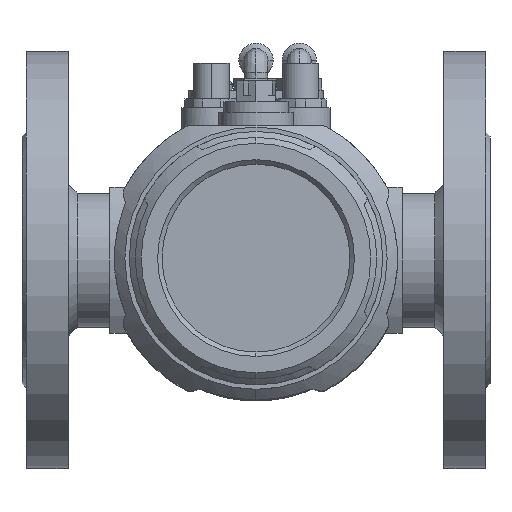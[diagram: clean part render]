
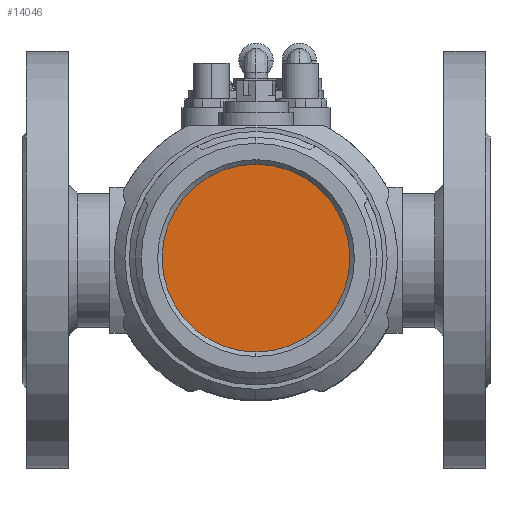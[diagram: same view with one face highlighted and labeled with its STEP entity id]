
A CAD part, top view. The second image highlights one B-rep face of the part: STEP entity #14046.
In plain terms, the highlighted planar face has unit normal (0, 0, 1) as drawn and (0, 1, 0) by its records, which use the part's own axes.
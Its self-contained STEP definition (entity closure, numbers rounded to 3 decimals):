
#9438=CARTESIAN_POINT('',(0.,20.,0.));
#9439=DIRECTION('',(0.,-1.,0.));
#9440=DIRECTION('',(-1.,0.,0.));
#9441=AXIS2_PLACEMENT_3D('',#9438,#9439,#9440);
#9443=CARTESIAN_POINT('',(0.,20.,0.));
#9444=DIRECTION('',(0.,-1.,0.));
#9445=DIRECTION('',(1.,0.,0.));
#9446=AXIS2_PLACEMENT_3D('',#9443,#9444,#9445);
#9464=CARTESIAN_POINT('',(-31.5,20.,0.));
#9465=CARTESIAN_POINT('',(31.5,20.,0.));
#9466=VERTEX_POINT('',#9464);
#9467=VERTEX_POINT('',#9465);
#14037=CARTESIAN_POINT('',(0.,20.,0.));
#14038=DIRECTION('',(0.,1.,0.));
#14039=DIRECTION('',(1.,0.,0.));
#14040=AXIS2_PLACEMENT_3D('',#14037,#14038,#14039);
#14041=PLANE('',#14040);
#14042=ORIENTED_EDGE('',*,*,#14017,.T.);
#14043=ORIENTED_EDGE('',*,*,#14031,.T.);
#14044=EDGE_LOOP('',(#14042,#14043));
#14045=FACE_OUTER_BOUND('',#14044,.F.);
#14046=ADVANCED_FACE('',(#14045),#14041,.T.);
#9442=CIRCLE('',#9441,31.5);
#9447=CIRCLE('',#9446,31.5);
#14017=EDGE_CURVE('',#9466,#9467,#9442,.T.);
#14031=EDGE_CURVE('',#9467,#9466,#9447,.T.);
